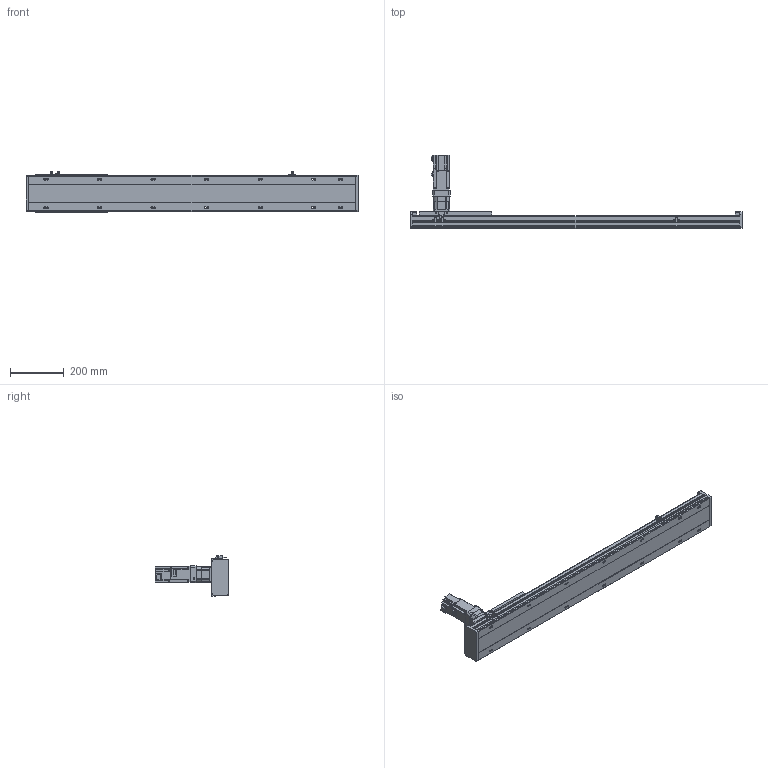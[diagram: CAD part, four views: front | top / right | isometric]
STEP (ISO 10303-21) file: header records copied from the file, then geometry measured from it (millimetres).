
FILE_DESCRIPTION(/* description */ ('STEP AP203'),/* implementation_level */ '2;1');
FILE_NAME(/* name */ 'SHS14A-L10-S900-BC-T40-C1-N(0)',/* time_stamp */ '2023-03-27T08:48:13+02:00',/* author */ ('License CC BY-ND 4.0'),/* organization */ ('CADENAS'),/* preprocessor_version */ 'ST-DEVELOPER v19.3',/* originating_system */ 'PARTsolutions',/* authorisation */ ' ');
FILE_SCHEMA (('CONFIG_CONTROL_DESIGN'));
Length unit declared in the file: millimetre
Products named in the file (7): SHS14A-L10-S900-BC-T40-C1-N(0); PSC140-sensor; T40-p1; SHS14AT_body3; SHS14A-900_slider; SHS14A_body2; SHS14A-S900-BC-T40-C1(0)_body
Assembly tree (13 placements, depth 2):
  SHS14A-L10-S900-BC-T40-C1-N(0)
    PSC140-sensor  x3
    T40-p1
    SHS14AT_body3
    SHS14A-900_slider
    SHS14A_body2  x6
    SHS14A-S900-BC-T40-C1(0)_body
Bounding box: 1240 x 272.7 x 150.9 mm (x, y, z)
Volume: 5962132 mm3; surface area: 957213.8 mm2
Topology: 13 solids, 13 shells, 2012 faces, 5143 edges, 3364 vertices
Faces by surface type: plane 1437, cylinder 499, cone 66, torus 10
Full cylindrical faces by diameter (mm): 2.8 x3, 4.134 x24, 4.2 x7, 4.4 x24, 4.5 x24, 4.6 x3, 4.8 x24, 4.917 x22, 5 x8, 5.5 x11, 5.94 x6, 6 x2, 6.6 x14, 8 x24, 8.49 x4, 8.5 x4, 9 x4, 10.5 x14, 13.964 x1, 14 x1, 14.182 x1, 16 x1, 18.974 x1, 19.274 x1, 19.774 x1, 19.8 x1, 34.442 x1, 42 x1, 50 x5
Entity records: 31144 total; most frequent: CARTESIAN_POINT 5472, DIRECTION 5269, ORIENTED_EDGE 4902, EDGE_CURVE 2451, AXIS2_PLACEMENT_3D 1793, VERTEX_POINT 1732, LINE 1683, VECTOR 1683
